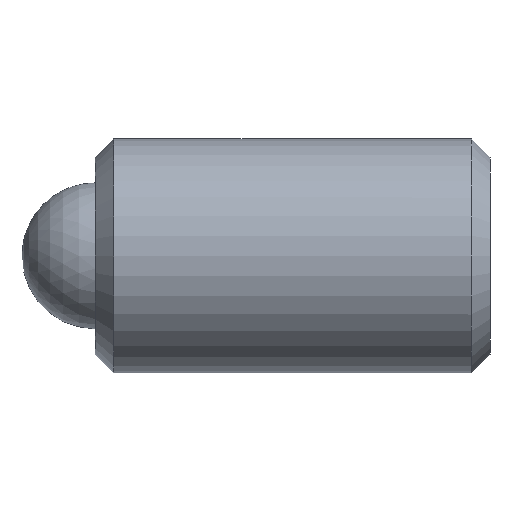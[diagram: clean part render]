
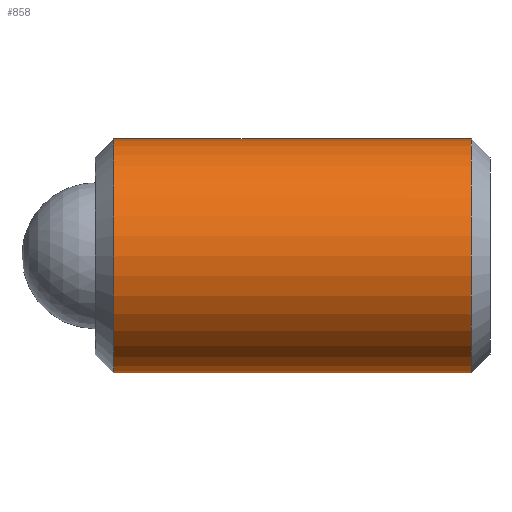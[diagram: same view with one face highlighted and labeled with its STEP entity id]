
A CAD part, front view. The second image highlights one B-rep face of the part: STEP entity #858.
In plain terms, the highlighted cylindrical face has radius 3.175 mm (diameter 6.35 mm), a partial arc.
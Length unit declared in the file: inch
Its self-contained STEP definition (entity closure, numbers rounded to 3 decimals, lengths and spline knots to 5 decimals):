
#24 = VERTEX_POINT ( 'NONE', #183 ) ;
#50 = ORIENTED_EDGE ( 'NONE', *, *, #230, .T. ) ;
#81 = EDGE_CURVE ( 'NONE', #414, #24, #792, .T. ) ;
#90 = EDGE_CURVE ( 'NONE', #329, #363, #612, .T. ) ;
#93 = EDGE_CURVE ( 'NONE', #414, #329, #718, .T. ) ;
#119 = DIRECTION ( 'NONE',  ( 0., 0., 1. ) ) ;
#165 = DIRECTION ( 'NONE',  ( -1., 0., 0. ) ) ;
#183 = CARTESIAN_POINT ( 'NONE',  ( 0.02, 0., -0.125 ) ) ;
#189 = CARTESIAN_POINT ( 'NONE',  ( 0.42188, 0., 0. ) ) ;
#215 = CARTESIAN_POINT ( 'NONE',  ( 0.40187, 0., 0. ) ) ;
#230 = EDGE_CURVE ( 'NONE', #363, #24, #742, .T. ) ;
#232 = CARTESIAN_POINT ( 'NONE',  ( 0.42188, 0., 0.125 ) ) ;
#233 = DIRECTION ( 'NONE',  ( -1., 0., 0. ) ) ;
#256 = DIRECTION ( 'NONE',  ( -1., 0., 0. ) ) ;
#329 = VERTEX_POINT ( 'NONE', #610 ) ;
#338 = AXIS2_PLACEMENT_3D ( 'NONE', #794, #373, #859 ) ;
#343 = AXIS2_PLACEMENT_3D ( 'NONE', #215, #905, #424 ) ;
#363 = VERTEX_POINT ( 'NONE', #403 ) ;
#373 = DIRECTION ( 'NONE',  ( 1., 0., 0. ) ) ;
#395 = CYLINDRICAL_SURFACE ( 'NONE', #553, 0.125 ) ;
#403 = CARTESIAN_POINT ( 'NONE',  ( 0.02, 0., 0.125 ) ) ;
#414 = VERTEX_POINT ( 'NONE', #565 ) ;
#424 = DIRECTION ( 'NONE',  ( 0., 0., -1. ) ) ;
#436 = ORIENTED_EDGE ( 'NONE', *, *, #90, .T. ) ;
#463 = CARTESIAN_POINT ( 'NONE',  ( 0.42188, 0., -0.125 ) ) ;
#510 = EDGE_LOOP ( 'NONE', ( #774, #693, #436, #50 ) ) ;
#553 = AXIS2_PLACEMENT_3D ( 'NONE', #189, #256, #119 ) ;
#565 = CARTESIAN_POINT ( 'NONE',  ( 0.40187, 0., -0.125 ) ) ;
#610 = CARTESIAN_POINT ( 'NONE',  ( 0.40187, 0., 0.125 ) ) ;
#612 = LINE ( 'NONE', #232, #639 ) ;
#639 = VECTOR ( 'NONE', #165, 39.37008 ) ;
#685 = FACE_OUTER_BOUND ( 'NONE', #510, .T. ) ;
#693 = ORIENTED_EDGE ( 'NONE', *, *, #93, .T. ) ;
#718 = CIRCLE ( 'NONE', #343, 0.125 ) ;
#742 = CIRCLE ( 'NONE', #338, 0.125 ) ;
#752 = VECTOR ( 'NONE', #233, 39.37008 ) ;
#774 = ORIENTED_EDGE ( 'NONE', *, *, #81, .F. ) ;
#792 = LINE ( 'NONE', #463, #752 ) ;
#794 = CARTESIAN_POINT ( 'NONE',  ( 0.02, 0., 0. ) ) ;
#858 = ADVANCED_FACE ( 'NONE', ( #685 ), #395, .T. ) ;
#859 = DIRECTION ( 'NONE',  ( 0., 0., -1. ) ) ;
#905 = DIRECTION ( 'NONE',  ( -1., 0., 0. ) ) ;
